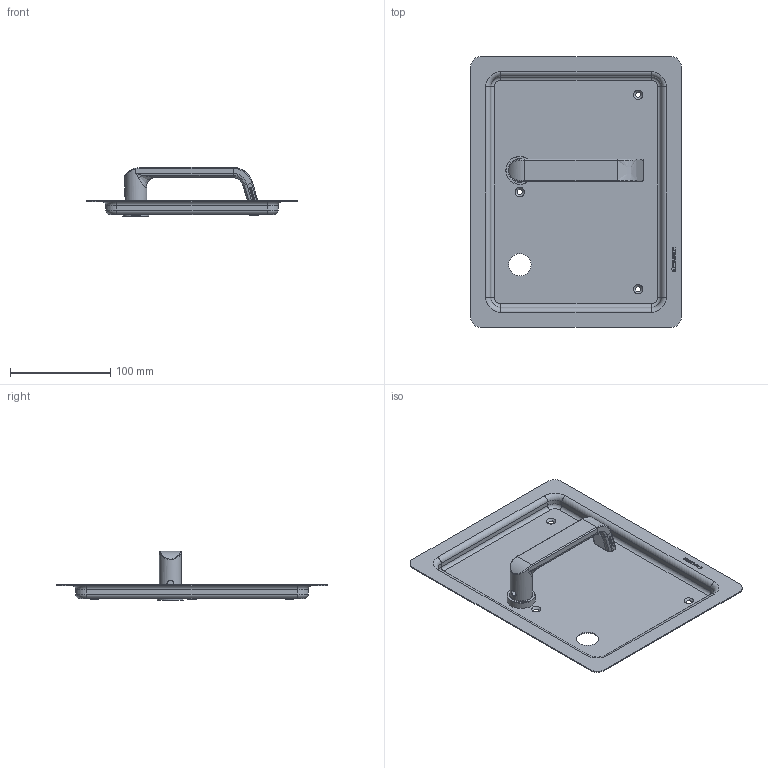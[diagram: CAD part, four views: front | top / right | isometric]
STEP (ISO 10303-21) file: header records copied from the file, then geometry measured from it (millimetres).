
FILE_DESCRIPTION(/* description */ (''),/* implementation_level */ '2;1');
FILE_NAME(/* name */ 'C:\ADSK_DMS_WS\Designs\Vorschläge\Loc Schalen\Muschel Serie 6\S6.13.D2\Heusser-Muschel S6.13.D2.294R.stp',/* time_stamp */ '2020-10-15T12:44:26+02:00',/* author */ ('gm'),/* organization */ (''),/* preprocessor_version */ 'ST-DEVELOPER v16.5',/* originating_system */ 'Autodesk Inventor 2017',/* authorisation */ '');
FILE_SCHEMA (('AUTOMOTIVE_DESIGN { 1 0 10303 214 3 1 1 }'));
Length unit declared in the file: millimetre
Products named in the file (1): S6.13.D1
Bounding box: 210 x 270 x 49 mm (x, y, z)
Volume: 107373.9 mm3; surface area: 142530.2 mm2
Topology: 1 solids, 2 shells, 608 faces, 1597 edges, 1034 vertices
Faces by surface type: plane 294, bspline 208, cylinder 69, torus 21, cone 16
Full cylindrical faces by diameter (mm): 1.7 x2, 6 x1, 14.2 x1, 16 x3, 18 x1, 19 x1, 19.1 x1, 22 x1, 22.3 x1, 23 x1, 23.2 x1, 24 x1, 25 x1, 26 x1, 28 x1
Entity records: 20798 total; most frequent: CARTESIAN_POINT 6354, ORIENTED_EDGE 3102, DIRECTION 2315, EDGE_CURVE 1551, VERTEX_POINT 1026, LINE 953, VECTOR 953, EDGE_LOOP 707
